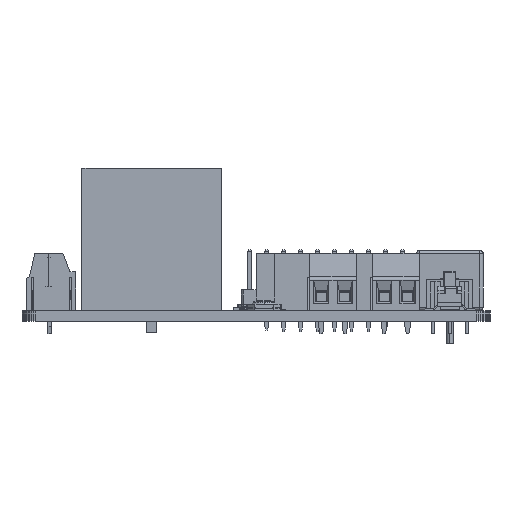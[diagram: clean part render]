
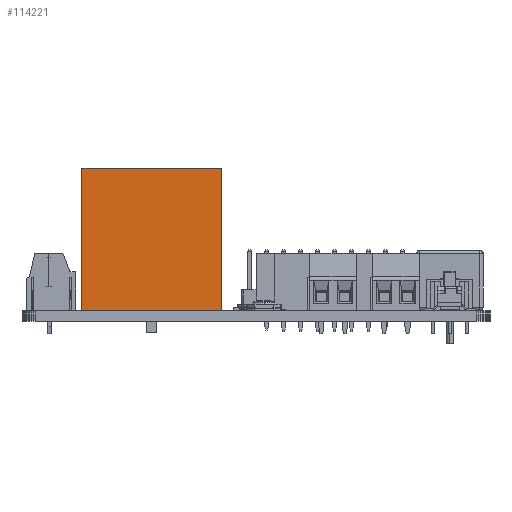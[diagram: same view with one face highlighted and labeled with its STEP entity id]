
A CAD part, front view. The second image highlights one B-rep face of the part: STEP entity #114221.
In plain terms, the highlighted planar face has unit normal (0, -1, 0) as drawn and (1, 0, 0) by its records, which use the part's own axes.
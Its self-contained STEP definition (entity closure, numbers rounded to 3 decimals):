
#106895 = PLANE('',#106896);
#106896 = AXIS2_PLACEMENT_3D('',#106897,#106898,#106899);
#106897 = CARTESIAN_POINT('',(0.,-0.003,0.)
  );
#106898 = DIRECTION('',(0.,0.,1.));
#106899 = DIRECTION('',(0.,1.,0.));
#107558 = PLANE('',#107559);
#107559 = AXIS2_PLACEMENT_3D('',#107560,#107561,#107562);
#107560 = CARTESIAN_POINT('',(0.,10.447,21.31)
  );
#107561 = DIRECTION('',(0.,-1.,0.));
#107562 = DIRECTION('',(1.,0.,0.));
#109309 = VERTEX_POINT('',#109310);
#109310 = CARTESIAN_POINT('',(38.85,10.447,0.)
  );
#109331 = EDGE_CURVE('',#109309,#109332,#109334,.T.);
#109332 = VERTEX_POINT('',#109333);
#109333 = CARTESIAN_POINT('',(38.85,10.447,21.31));
#109334 = SURFACE_CURVE('',#109335,(#109339,#109346),.PCURVE_S1.);
#109335 = LINE('',#109336,#109337);
#109336 = CARTESIAN_POINT('',(38.85,10.447,21.31));
#109337 = VECTOR('',#109338,1.);
#109338 = DIRECTION('',(0.,0.,1.));
#109339 = PCURVE('',#107558,#109340);
#109340 = DEFINITIONAL_REPRESENTATION('',(#109341),#109345);
#109341 = LINE('',#109342,#109343);
#109342 = CARTESIAN_POINT('',(38.85,0.));
#109343 = VECTOR('',#109344,1.);
#109344 = DIRECTION('',(0.,1.));
#109345 = ( GEOMETRIC_REPRESENTATION_CONTEXT(2) 
PARAMETRIC_REPRESENTATION_CONTEXT() REPRESENTATION_CONTEXT('2D SPACE',''
  ) );
#109346 = PCURVE('',#109347,#109352);
#109347 = PLANE('',#109348);
#109348 = AXIS2_PLACEMENT_3D('',#109349,#109350,#109351);
#109349 = CARTESIAN_POINT('',(38.85,-0.003,21.31));
#109350 = DIRECTION('',(1.,0.,0.));
#109351 = DIRECTION('',(0.,1.,0.));
#109352 = DEFINITIONAL_REPRESENTATION('',(#109353),#109357);
#109353 = LINE('',#109354,#109355);
#109354 = CARTESIAN_POINT('',(10.45,0.));
#109355 = VECTOR('',#109356,1.);
#109356 = DIRECTION('',(0.,1.));
#109357 = ( GEOMETRIC_REPRESENTATION_CONTEXT(2) 
PARAMETRIC_REPRESENTATION_CONTEXT() REPRESENTATION_CONTEXT('2D SPACE',''
  ) );
#109375 = PLANE('',#109376);
#109376 = AXIS2_PLACEMENT_3D('',#109377,#109378,#109379);
#109377 = CARTESIAN_POINT('',(0.,-0.003,
    21.31));
#109378 = DIRECTION('',(0.,0.,1.));
#109379 = DIRECTION('',(0.,1.,0.));
#113501 = PLANE('',#113502);
#113502 = AXIS2_PLACEMENT_3D('',#113503,#113504,#113505);
#113503 = CARTESIAN_POINT('',(0.,-10.453,21.31)
  );
#113504 = DIRECTION('',(0.,-1.,0.));
#113505 = DIRECTION('',(1.,0.,0.));
#113598 = VERTEX_POINT('',#113599);
#113599 = CARTESIAN_POINT('',(38.85,-10.453,0.)
  );
#113620 = EDGE_CURVE('',#113598,#109309,#113621,.T.);
#113621 = SURFACE_CURVE('',#113622,(#113626,#113633),.PCURVE_S1.);
#113622 = LINE('',#113623,#113624);
#113623 = CARTESIAN_POINT('',(38.85,-0.003,0.));
#113624 = VECTOR('',#113625,1.);
#113625 = DIRECTION('',(0.,1.,0.));
#113626 = PCURVE('',#106895,#113627);
#113627 = DEFINITIONAL_REPRESENTATION('',(#113628),#113632);
#113628 = LINE('',#113629,#113630);
#113629 = CARTESIAN_POINT('',(0.,-38.85));
#113630 = VECTOR('',#113631,1.);
#113631 = DIRECTION('',(1.,0.));
#113632 = ( GEOMETRIC_REPRESENTATION_CONTEXT(2) 
PARAMETRIC_REPRESENTATION_CONTEXT() REPRESENTATION_CONTEXT('2D SPACE',''
  ) );
#113633 = PCURVE('',#109347,#113634);
#113634 = DEFINITIONAL_REPRESENTATION('',(#113635),#113639);
#113635 = LINE('',#113636,#113637);
#113636 = CARTESIAN_POINT('',(0.,-21.31));
#113637 = VECTOR('',#113638,1.);
#113638 = DIRECTION('',(1.,0.));
#113639 = ( GEOMETRIC_REPRESENTATION_CONTEXT(2) 
PARAMETRIC_REPRESENTATION_CONTEXT() REPRESENTATION_CONTEXT('2D SPACE',''
  ) );
#114221 = ADVANCED_FACE('',(#114222),#109347,.T.);
#114222 = FACE_BOUND('',#114223,.T.);
#114223 = EDGE_LOOP('',(#114224,#114247,#114268,#114269));
#114224 = ORIENTED_EDGE('',*,*,#114225,.T.);
#114225 = EDGE_CURVE('',#109332,#114226,#114228,.T.);
#114226 = VERTEX_POINT('',#114227);
#114227 = CARTESIAN_POINT('',(38.85,-10.453,21.31));
#114228 = SURFACE_CURVE('',#114229,(#114233,#114240),.PCURVE_S1.);
#114229 = LINE('',#114230,#114231);
#114230 = CARTESIAN_POINT('',(38.85,-0.003,21.31));
#114231 = VECTOR('',#114232,1.);
#114232 = DIRECTION('',(0.,-1.,0.));
#114233 = PCURVE('',#109347,#114234);
#114234 = DEFINITIONAL_REPRESENTATION('',(#114235),#114239);
#114235 = LINE('',#114236,#114237);
#114236 = CARTESIAN_POINT('',(0.,0.));
#114237 = VECTOR('',#114238,1.);
#114238 = DIRECTION('',(-1.,0.));
#114239 = ( GEOMETRIC_REPRESENTATION_CONTEXT(2) 
PARAMETRIC_REPRESENTATION_CONTEXT() REPRESENTATION_CONTEXT('2D SPACE',''
  ) );
#114240 = PCURVE('',#109375,#114241);
#114241 = DEFINITIONAL_REPRESENTATION('',(#114242),#114246);
#114242 = LINE('',#114243,#114244);
#114243 = CARTESIAN_POINT('',(0.,-38.85));
#114244 = VECTOR('',#114245,1.);
#114245 = DIRECTION('',(-1.,0.));
#114246 = ( GEOMETRIC_REPRESENTATION_CONTEXT(2) 
PARAMETRIC_REPRESENTATION_CONTEXT() REPRESENTATION_CONTEXT('2D SPACE',''
  ) );
#114247 = ORIENTED_EDGE('',*,*,#114248,.T.);
#114248 = EDGE_CURVE('',#114226,#113598,#114249,.T.);
#114249 = SURFACE_CURVE('',#114250,(#114254,#114261),.PCURVE_S1.);
#114250 = LINE('',#114251,#114252);
#114251 = CARTESIAN_POINT('',(38.85,-10.453,21.31));
#114252 = VECTOR('',#114253,1.);
#114253 = DIRECTION('',(0.,0.,-1.));
#114254 = PCURVE('',#109347,#114255);
#114255 = DEFINITIONAL_REPRESENTATION('',(#114256),#114260);
#114256 = LINE('',#114257,#114258);
#114257 = CARTESIAN_POINT('',(-10.45,0.));
#114258 = VECTOR('',#114259,1.);
#114259 = DIRECTION('',(0.,-1.));
#114260 = ( GEOMETRIC_REPRESENTATION_CONTEXT(2) 
PARAMETRIC_REPRESENTATION_CONTEXT() REPRESENTATION_CONTEXT('2D SPACE',''
  ) );
#114261 = PCURVE('',#113501,#114262);
#114262 = DEFINITIONAL_REPRESENTATION('',(#114263),#114267);
#114263 = LINE('',#114264,#114265);
#114264 = CARTESIAN_POINT('',(38.85,0.));
#114265 = VECTOR('',#114266,1.);
#114266 = DIRECTION('',(0.,-1.));
#114267 = ( GEOMETRIC_REPRESENTATION_CONTEXT(2) 
PARAMETRIC_REPRESENTATION_CONTEXT() REPRESENTATION_CONTEXT('2D SPACE',''
  ) );
#114268 = ORIENTED_EDGE('',*,*,#113620,.T.);
#114269 = ORIENTED_EDGE('',*,*,#109331,.T.);
